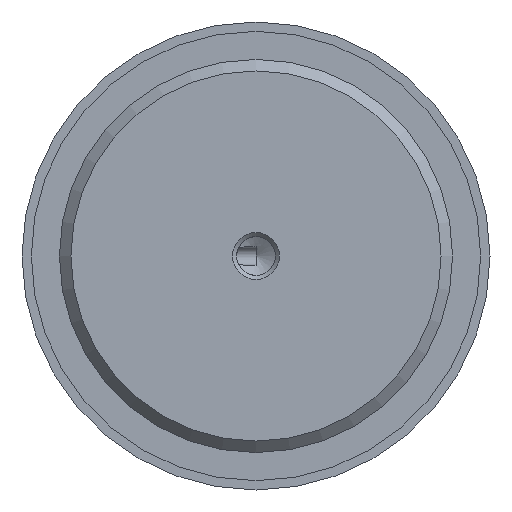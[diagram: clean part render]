
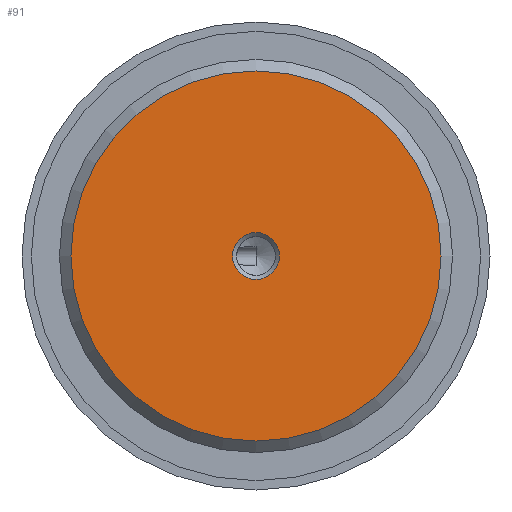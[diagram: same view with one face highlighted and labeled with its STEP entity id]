
A CAD part, front view. The second image highlights one B-rep face of the part: STEP entity #91.
In plain terms, the highlighted planar face has unit normal (0, -1, 0).
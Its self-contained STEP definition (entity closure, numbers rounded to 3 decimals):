
#91 = ADVANCED_FACE( '', ( #171, #172 ), #173, .F. );
#171 = FACE_BOUND( '', #294, .T. );
#172 = FACE_OUTER_BOUND( '', #295, .T. );
#173 = PLANE( '', #296 );
#294 = EDGE_LOOP( '', ( #479 ) );
#295 = EDGE_LOOP( '', ( #480 ) );
#296 = AXIS2_PLACEMENT_3D( '', #481, #482, #483 );
#479 = ORIENTED_EDGE( '', *, *, #791, .F. );
#480 = ORIENTED_EDGE( '', *, *, #822, .T. );
#481 = CARTESIAN_POINT( '', ( 19.773, 0., 0. ) );
#482 = DIRECTION( '', ( 0., 1., 0. ) );
#483 = DIRECTION( '', ( 0., 0., 1. ) );
#791 = EDGE_CURVE( '', #920, #920, #921, .T. );
#822 = EDGE_CURVE( '', #976, #976, #977, .T. );
#920 = VERTEX_POINT( '', #1154 );
#921 = CIRCLE( '', #1155, 2.5 );
#976 = VERTEX_POINT( '', #1297 );
#977 = CIRCLE( '', #1298, 19.773 );
#1154 = CARTESIAN_POINT( '', ( 2.5, 0., 0. ) );
#1155 = AXIS2_PLACEMENT_3D( '', #1541, #1542, #1543 );
#1297 = CARTESIAN_POINT( '', ( 0., 0., -19.773 ) );
#1298 = AXIS2_PLACEMENT_3D( '', #1578, #1579, #1580 );
#1541 = CARTESIAN_POINT( '', ( 0., 0., 0. ) );
#1542 = DIRECTION( '', ( 0., -1., 0. ) );
#1543 = DIRECTION( '', ( 1., 0., 0. ) );
#1578 = CARTESIAN_POINT( '', ( 0., 0., 0. ) );
#1579 = DIRECTION( '', ( 0., -1., 0. ) );
#1580 = DIRECTION( '', ( 0., 0., -1. ) );
